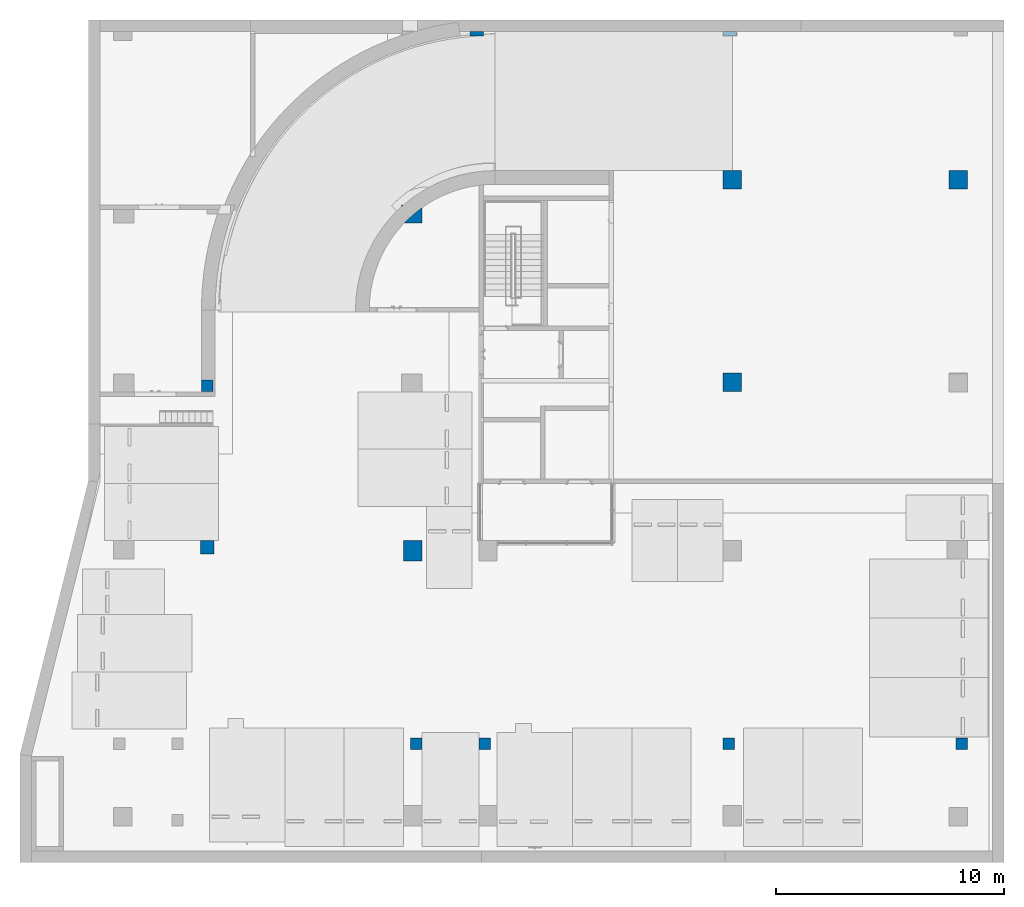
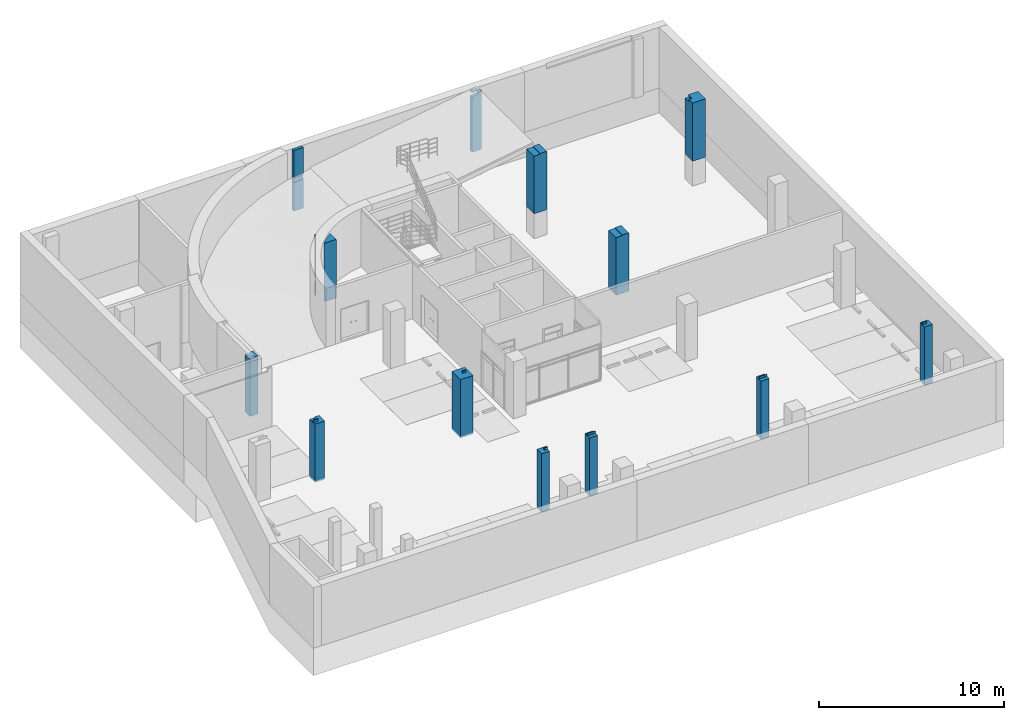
# One storey, part 16 of 30: 13 columns.
"""IFC2X3 building model written with IfcOpenShell, lengths in millimetres."""

from ifc_helpers import new_model, entity, si_unit, converted_unit, derived_unit, direction, frame, origin, place, context, subcontext, project, spatial, faceted_brep, source, transform, mapped, material, material_list, type_object, type_shapes, element, save


model = new_model("IFC2X3")

# Units and contexts
model_context = context("Model", 3, precision=0.01, world=origin(), true_north=direction((6.123031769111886e-17, 1.0)))
body_context = subcontext(model_context, "Body", "Model", "MODEL_VIEW")
ifc_project = project(units=[si_unit("LENGTHUNIT", "METRE", prefix="MILLI"), si_unit("AREAUNIT", "SQUARE_METRE"), si_unit("VOLUMEUNIT", "CUBIC_METRE"), converted_unit("PLANEANGLEUNIT", "DEGREE", entity("IfcRatioMeasure", 0.017453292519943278), si_unit("PLANEANGLEUNIT", "RADIAN"), dimensions=[0, 0, 0, 0, 0, 0, 0]), si_unit("MASSUNIT", "GRAM", prefix="KILO"), derived_unit("MASSDENSITYUNIT", [(si_unit("MASSUNIT", "GRAM", prefix="KILO"), 1), (si_unit("LENGTHUNIT", "METRE"), -3)]), derived_unit("MOMENTOFINERTIAUNIT", [(si_unit("LENGTHUNIT", "METRE"), 4)]), si_unit("TIMEUNIT", "SECOND"), si_unit("FREQUENCYUNIT", "HERTZ"), si_unit("THERMODYNAMICTEMPERATUREUNIT", "DEGREE_CELSIUS"), derived_unit("THERMALTRANSMITTANCEUNIT", [(si_unit("MASSUNIT", "GRAM", prefix="KILO"), 1), (si_unit("THERMODYNAMICTEMPERATUREUNIT", "KELVIN"), -1), (si_unit("TIMEUNIT", "SECOND"), -3)]), derived_unit("VOLUMETRICFLOWRATEUNIT", [(si_unit("LENGTHUNIT", "METRE"), 3), (si_unit("TIMEUNIT", "SECOND"), -1)]), derived_unit("MASSFLOWRATEUNIT", [(si_unit("MASSUNIT", "GRAM", prefix="KILO"), 1), (si_unit("TIMEUNIT", "SECOND"), -1)]), derived_unit("ROTATIONALFREQUENCYUNIT", [(si_unit("TIMEUNIT", "SECOND"), -1)]), si_unit("ELECTRICCURRENTUNIT", "AMPERE"), si_unit("ELECTRICVOLTAGEUNIT", "VOLT"), si_unit("POWERUNIT", "WATT"), si_unit("FORCEUNIT", "NEWTON", prefix="KILO"), si_unit("ILLUMINANCEUNIT", "LUX"), si_unit("LUMINOUSFLUXUNIT", "LUMEN"), si_unit("LUMINOUSINTENSITYUNIT", "CANDELA"), derived_unit("USERDEFINED", [(si_unit("MASSUNIT", "GRAM", prefix="KILO"), -1), (si_unit("LENGTHUNIT", "METRE"), -2), (si_unit("TIMEUNIT", "SECOND"), 3), (si_unit("LUMINOUSFLUXUNIT", "LUMEN"), 1)]), derived_unit("SOUNDPOWERUNIT", [(si_unit("MASSUNIT", "GRAM", prefix="KILO"), 1), (si_unit("LENGTHUNIT", "METRE"), 2), (si_unit("TIMEUNIT", "SECOND"), -3)]), derived_unit("SOUNDPRESSUREUNIT", [(si_unit("MASSUNIT", "GRAM", prefix="KILO"), 1), (si_unit("LENGTHUNIT", "METRE"), -1), (si_unit("TIMEUNIT", "SECOND"), -2)]), derived_unit("LINEARVELOCITYUNIT", [(si_unit("LENGTHUNIT", "METRE"), 1), (si_unit("TIMEUNIT", "SECOND"), -1)]), si_unit("PRESSUREUNIT", "PASCAL"), derived_unit("USERDEFINED", [(si_unit("LENGTHUNIT", "METRE"), -2), (si_unit("MASSUNIT", "GRAM", prefix="KILO"), 1), (si_unit("TIMEUNIT", "SECOND"), -2)]), derived_unit("LINEARFORCEUNIT", [(si_unit("MASSUNIT", "GRAM", prefix="KILO"), 1), (si_unit("LENGTHUNIT", "METRE"), 1), (si_unit("TIMEUNIT", "SECOND"), -2), (si_unit("LENGTHUNIT", "METRE"), -1)]), derived_unit("PLANARFORCEUNIT", [(si_unit("MASSUNIT", "GRAM", prefix="KILO"), 1), (si_unit("LENGTHUNIT", "METRE"), 1), (si_unit("TIMEUNIT", "SECOND"), -2), (si_unit("LENGTHUNIT", "METRE"), -2)])], contexts=[model_context])

# Site, building, storey
site_placement = place(None, frame((-14167.972527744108, -657.2125860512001, 0.0)))
site = spatial("IfcSite", under=ifc_project, at=site_placement, Name="Default", CompositionType="ELEMENT")
building_placement = place(site_placement, origin())
building = spatial("IfcBuilding", under=site, at=building_placement, Name="Sample Building", CompositionType="ELEMENT")
storey_placement = place(building_placement, frame((0.0, 0.0, -10100.0)))
storey = spatial("IfcBuildingStorey", under=building, at=storey_placement, Name="지하2층", CompositionType="ELEMENT", Elevation=-10100.0)

# Columns
ifc_material = material(Name="KBIMS-콘크리트")
column_type_1 = type_object("IfcColumnType", Name="CL111-철근콘크리트구조 기둥 (각형)1:CL111-철근콘크리트구조 기둥 (각형)_500x500_B2-B1C11", PredefinedType="COLUMN", material=ifc_material)
shared_shape_1 = source(origin(), body_context, "Body", "Brep", [
    faceted_brep([(500.0, 500.0, 0.0), (500.0, 0.0, 0.0), (0.0, 0.0, 0.0), (0.0, 500.0, 0.0), (500.0, 500.0, 3850.0), (500.0, 249.99969094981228, 3850.0), (500.0, 249.99969094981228, 4000.0), (500.0, 225.74612844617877, 4000.0), (500.0, 225.74612844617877, 3850.0), (500.0, 0.0, 3850.0), (0.0, 0.0, 3850.0), (0.0, 0.0, 3150.0), (0.0, 225.74612844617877, 3850.0), (0.0, 225.74612844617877, 4000.0), (0.0, 249.99969094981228, 4000.0), (0.0, 249.99969094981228, 3850.0), (0.0, 500.0, 3850.0), (0.0, 500.0, 3150.0), (50.0, 500.0, 3850.0), (450.0, 500.0, 3850.0)], [[[0, 1, 2, 3]], [[1, 0, 4, 5, 6, 7, 8, 9]], [[2, 1, 9, 10, 11]], [[3, 2, 11, 10, 12, 13, 14, 15, 16, 17]], [[0, 3, 17, 16, 18, 19, 4]], [[13, 7, 6, 14]], [[9, 8, 12, 10]], [[12, 8, 7, 13]], [[15, 5, 4, 19, 18, 16]], [[5, 15, 14, 6]]]),
])
type_shapes(column_type_1, [shared_shape_1])
column_1_placement = place(storey_placement, frame((40767.95514177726, 3907.2126921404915, 0.0)))
element("IfcColumn", 1, at=column_1_placement, inside=storey, type_object=column_type_1, material=ifc_material, Name="CL111-철근콘크리트구조 기둥 (각형)1:CL111-철근콘크리트구조 기둥 (각형)_500x500_B2-B1C11", ObjectType="CL111-철근콘크리트구조 기둥 (각형)1:CL111-철근콘크리트구조 기둥 (각형)_500x500_B2-B1C11", context=body_context, shape_type="MappedRepresentation", body=[
    mapped(shared_shape_1, transform((0.0, 0.0, 0.0), scale=1.0)),
])
column_type_2 = type_object("IfcColumnType", Name="CL111-철근콘크리트구조 기둥 (각형)1:CL111-철근콘크리트구조 기둥 (각형)_500x500_B2-B1C11", PredefinedType="COLUMN", material=ifc_material)
shared_shape_2 = source(origin(), body_context, "Body", "Brep", [
    faceted_brep([(500.0, 500.0, 0.0), (500.0, 0.0, 0.0), (0.0, 0.0, 0.0), (0.0, 500.0, 0.0), (500.0, 500.0, 3850.0), (500.0, 450.0, 3850.0), (500.0, 50.0, 3850.0), (500.0, 0.0, 3850.0), (0.0, 0.0, 3850.0), (0.0, 225.74612844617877, 3850.0), (0.0, 225.74612844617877, 4000.0), (0.0, 249.99969094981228, 4000.0), (0.0, 249.99969094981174, 3850.0), (0.0, 500.0, 3850.0), (250.01734935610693, 225.74612844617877, 4000.0), (250.01734935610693, 249.99969094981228, 4000.0), (250.01734935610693, 249.99969094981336, 3850.0), (250.01734935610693, 225.74612844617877, 3850.0)], [[[0, 1, 2, 3]], [[1, 0, 4, 5, 6, 7]], [[2, 1, 7, 8]], [[3, 2, 8, 9, 10, 11, 12, 13]], [[0, 3, 13, 4]], [[10, 14, 15, 11]], [[7, 6, 5, 4, 13, 12, 16, 17, 9, 8]], [[17, 14, 10, 9]], [[14, 17, 16, 15]], [[16, 12, 11, 15]]]),
])
type_shapes(column_type_2, [shared_shape_2])
column_2_placement = place(storey_placement, frame((50967.963838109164, 3907.2126921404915, 0.0)))
element("IfcColumn", 2, at=column_2_placement, inside=storey, type_object=column_type_2, material=ifc_material, Name="CL111-철근콘크리트구조 기둥 (각형)1:CL111-철근콘크리트구조 기둥 (각형)_500x500_B2-B1C11", ObjectType="CL111-철근콘크리트구조 기둥 (각형)1:CL111-철근콘크리트구조 기둥 (각형)_500x500_B2-B1C11", context=body_context, shape_type="MappedRepresentation", body=[
    mapped(shared_shape_2, transform((0.0, 0.0, 0.0), scale=1.0)),
])
column_type_3 = type_object("IfcColumnType", Name="CL111-철근콘크리트구조 기둥 (각형)1:CL111-철근콘크리트구조 기둥 (각형)_800x900_B2-1C2", PredefinedType="COLUMN", material=ifc_material)
shared_shape_3 = source(origin(), body_context, "Body", "Brep", [
    faceted_brep([(800.0, 900.0, 0.0), (800.0, 0.0, 0.0), (0.0, 0.0, 0.0), (0.0, 900.0, 0.0), (800.0, 900.0, 3850.0), (800.0, 700.0, 3850.0), (800.0, 300.0, 3850.0), (800.0, 0.0, 3850.0), (750.0, 0.0, 3850.0), (350.0, 0.0, 3850.0), (0.0, 0.0, 3850.0), (0.0, 900.0, 3850.0), (600.0251727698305, 449.99969094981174, 4000.0), (600.0251727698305, 499.999690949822, 4000.0), (400.01734935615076, 499.999690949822, 4000.0), (400.01734935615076, 449.99969094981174, 4000.0), (400.01734935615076, 449.99969094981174, 3850.0), (400.01734935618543, 499.9996909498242, 3850.0), (600.0251727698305, 499.99969094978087, 3850.0), (600.0251727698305, 449.9996909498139, 3850.0)], [[[0, 1, 2, 3]], [[1, 0, 4, 5, 6, 7]], [[2, 1, 7, 8, 9, 10]], [[3, 2, 10, 11]], [[0, 3, 11, 4]], [[12, 13, 14, 15]], [[11, 10, 9, 8, 7, 6, 5, 4], [16, 17, 18, 19]], [[13, 12, 19, 18]], [[16, 15, 14, 17]], [[16, 19, 12, 15]], [[18, 17, 14, 13]]]),
])
type_shapes(column_type_3, [shared_shape_3])
column_3_placement = place(storey_placement, frame((26767.955141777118, 12157.212617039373, 0.0)))
element("IfcColumn", 3, at=column_3_placement, inside=storey, type_object=column_type_3, material=ifc_material, Name="CL111-철근콘크리트구조 기둥 (각형)1:CL111-철근콘크리트구조 기둥 (각형)_800x900_B2-1C2", ObjectType="CL111-철근콘크리트구조 기둥 (각형)1:CL111-철근콘크리트구조 기둥 (각형)_800x900_B2-1C2", context=body_context, shape_type="MappedRepresentation", body=[
    mapped(shared_shape_3, transform((0.0, 0.0, 0.0), scale=1.0)),
])
column_type_4 = type_object("IfcColumnType", Name="CL111-철근콘크리트구조 기둥 (각형)1:CL111-철근콘크리트구조 기둥 (각형)_500x500_B2-B1C11", PredefinedType="COLUMN", material=ifc_material)
shared_shape_4 = source(origin(), body_context, "Body", "Brep", [
    faceted_brep([(500.0, 500.0, 0.0), (500.0, 0.0, 0.0), (0.0, 0.0, 0.0), (0.0, 500.0, 0.0), (500.0, 500.0, 3850.0), (500.0, 0.0, 3850.0), (250.03386575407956, 0.0, 3850.0), (250.0338657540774, 0.0, 3800.0), (0.0, 0.0, 3800.0), (0.0, 500.0, 3800.0), (250.03386575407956, 500.0, 3800.0), (250.03386575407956, 500.0, 3850.0), (250.03386575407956, 212.49976604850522, 3850.0)], [[[0, 1, 2, 3]], [[1, 0, 4, 5]], [[2, 1, 5, 6, 7, 8]], [[3, 2, 8, 9]], [[0, 3, 9, 10, 11, 4]], [[4, 11, 12, 6, 5]], [[7, 10, 9, 8]], [[10, 7, 6, 12, 11]]]),
])
type_shapes(column_type_4, [shared_shape_4])
column_4_placement = place(storey_placement, frame((17917.946448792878, 19594.712541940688, 0.0)))
element("IfcColumn", 4, at=column_4_placement, inside=storey, type_object=column_type_4, material=ifc_material, Name="CL111-철근콘크리트구조 기둥 (각형)1:CL111-철근콘크리트구조 기둥 (각형)_500x500_B2-B1C11", ObjectType="CL111-철근콘크리트구조 기둥 (각형)1:CL111-철근콘크리트구조 기둥 (각형)_500x500_B2-B1C11", context=body_context, shape_type="MappedRepresentation", body=[
    mapped(shared_shape_4, transform((0.0, 0.0, 0.0), scale=1.0)),
])
column_type_5 = type_object("IfcColumnType", Name="CL111-철근콘크리트구조 기둥 (각형)1:CL111-철근콘크리트구조 기둥 (각형)_800x800_B2-4C1", PredefinedType="COLUMN", material=ifc_material)
shared_shape_5 = source(origin(), body_context, "Body", "Brep", [
    faceted_brep([(800.0, 800.0, 0.0), (800.0, 0.0, 0.0), (0.0, 0.0, 0.0), (0.0, 800.0, 0.0), (800.0, 800.0, 3850.0), (800.0, 0.0, 3850.0), (400.02517277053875, 0.0, 3850.0), (400.02517277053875, 0.0, 3800.0), (0.0, 0.0, 3800.0), (0.0, 800.0, 3800.0), (400.02517277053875, 800.0, 3800.0), (400.0251727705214, 800.0, 3850.0), (400.02517277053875, 362.4997660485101, 3850.0)], [[[0, 1, 2, 3]], [[1, 0, 4, 5]], [[2, 1, 5, 6, 7, 8]], [[3, 2, 8, 9]], [[0, 3, 9, 10, 11, 4]], [[6, 5, 4, 11, 12]], [[7, 10, 9, 8]], [[10, 7, 6, 12, 11]]]),
])
type_shapes(column_type_5, [shared_shape_5])
column_5_placement = place(storey_placement, frame((40767.95514177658, 19594.712541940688, 0.0)))
element("IfcColumn", 5, at=column_5_placement, inside=storey, type_object=column_type_5, material=ifc_material, Name="CL111-철근콘크리트구조 기둥 (각형)1:CL111-철근콘크리트구조 기둥 (각형)_800x800_B2-4C1", ObjectType="CL111-철근콘크리트구조 기둥 (각형)1:CL111-철근콘크리트구조 기둥 (각형)_800x800_B2-4C1", context=body_context, shape_type="MappedRepresentation", body=[
    mapped(shared_shape_5, transform((0.0, 0.0, 0.0), scale=1.0)),
])
ifc_material_list_1 = material_list([ifc_material, ifc_material])
ifc_material_list_2 = material_list([ifc_material, ifc_material])
column_type_6 = type_object("IfcColumnType", Name="CL111-철근콘크리트구조 기둥 (각형)1:CL111-철근콘크리트구조 기둥 (각형)_800x900_B2-1C2", PredefinedType="COLUMN", material=ifc_material_list_2)
shared_shape_6 = source(origin(), body_context, "Body", "Brep", [
    faceted_brep([(901.5875000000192, 1.5874999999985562, 0.0), (125.4260743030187, 1.5874999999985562, 0.0), (307.43946888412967, 183.33417758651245, 0.0), (497.7512024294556, 356.3722505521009, 0.0), (695.9450381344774, 520.3232618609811, 0.0), (901.5875000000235, 674.8286290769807, 0.0), (901.5875000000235, 674.8286290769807, 3850.0), (901.5875000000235, 1.5874999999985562, 3850.0), (125.4260743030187, 1.5874999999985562, 3850.0), (307.43946888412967, 183.33417758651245, 3850.0), (695.9450381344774, 520.3232618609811, 3850.0), (497.7512024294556, 356.3722505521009, 3850.0)], [[[0, 1, 2, 3, 4, 5]], [[6, 7, 0, 5]], [[7, 8, 1, 0]], [[9, 8, 7, 6, 10, 11]], [[8, 9, 2, 1]], [[2, 9, 11, 3]], [[10, 6, 5, 4]], [[10, 4, 3, 11]]]),
    faceted_brep([(95.36007941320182, 801.5874999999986, 4000.0), (95.36007941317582, 801.5874999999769, 3318.222909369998), (95.36007941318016, 801.5874999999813, 2636.445818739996), (95.3600794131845, 801.5874999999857, 1954.6687281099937), (95.36007941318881, 801.58749999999, 1272.8916374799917), (95.36007941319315, 801.5874999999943, 681.7770906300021), (95.36007941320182, 801.5874999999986, 0.0), (1.587500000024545, 801.5874999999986, 0.0), (1.587500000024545, 801.5874999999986, 935.7523161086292), (48.28034534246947, 801.5874999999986, 943.9947053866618), (94.92041790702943, 801.5874999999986, 952.3099681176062), (94.92041790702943, 801.5874999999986, 1252.3099681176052), (48.2803453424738, 801.5874999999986, 1243.9947053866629), (1.587500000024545, 801.5874999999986, 1235.752316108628), (1.587500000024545, 801.5874999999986, 4000.0), (1.5875000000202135, 760.064421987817, 1229.3064590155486), (1.5875000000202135, 718.5870322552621, 1222.8029626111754), (1.5875000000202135, 718.5870322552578, 922.8029626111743), (1.5875000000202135, 760.064421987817, 929.3064590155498), (1.5875000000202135, 718.2073581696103, 0.0), (1.5875000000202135, 718.2073581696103, 681.7770906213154), (1.5875000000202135, 718.2073581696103, 1000.0), (1.5875000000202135, 718.2073581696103, 1500.0), (1.5875000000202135, 718.2073581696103, 2000.0), (1.5875000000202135, 718.2073581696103, 2636.4458187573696), (1.5875000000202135, 718.2073581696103, 3318.222909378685), (1.5875000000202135, 718.2073581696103, 4000.0), (48.25938558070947, 760.1385563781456, 4000.0), (48.0414688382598, 760.3261249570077, 937.5564572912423), (48.04146883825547, 760.3261249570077, 1237.5564572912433), (58.95380818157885, 769.6253430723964, 420.4442725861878), (48.2593855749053, 760.1385563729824, 840.8885452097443), (49.75987630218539, 761.4723116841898, 2298.1831375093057), (47.04731694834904, 759.0605278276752, 1750.0), (48.25938557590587, 760.1385563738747, 3512.9490910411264), (48.259385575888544, 760.1385563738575, 2761.6068451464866), (44.13420291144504, 756.4672061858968, 1295.0186779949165), (48.25938558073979, 760.1385563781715, 0.0)], [[[0, 1, 2, 3, 4, 5, 6, 7, 8, 9, 10, 11, 12, 13, 14]], [[14, 13, 15, 16, 17, 18, 8, 7, 19, 20, 21, 22, 23, 24, 25, 26]], [[0, 14, 26, 27]], [[11, 10, 28, 29]], [[28, 17, 16, 29]], [[29, 12, 11]], [[15, 12, 29]], [[29, 16, 15]], [[12, 15, 13]], [[10, 9, 28]], [[28, 9, 18]], [[18, 17, 28]], [[8, 18, 9]], [[20, 30, 31]], [[32, 33, 3]], [[34, 35, 2, 1, 0, 27]], [[4, 31, 5]], [[30, 20, 19]], [[22, 21, 36]], [[30, 37, 6]], [[31, 4, 36]], [[24, 32, 35]], [[35, 32, 2]], [[27, 26, 25, 24, 35, 34]], [[31, 21, 20]], [[23, 22, 33]], [[5, 31, 30]], [[36, 33, 22]], [[23, 33, 32]], [[3, 33, 4]], [[23, 32, 24]], [[2, 32, 3]], [[5, 30, 6]], [[19, 37, 30]], [[33, 36, 4]], [[31, 36, 21]], [[37, 19, 7, 6]]]),
])
type_shapes(column_type_6, [shared_shape_6])
column_6_placement = place(storey_placement, frame((26666.367641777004, 26955.6251170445, 0.0)))
element("IfcColumn", 6, at=column_6_placement, inside=storey, type_object=column_type_6, material=ifc_material_list_1, Name="CL111-철근콘크리트구조 기둥 (각형)1:CL111-철근콘크리트구조 기둥 (각형)_800x900_B2-1C2", ObjectType="CL111-철근콘크리트구조 기둥 (각형)1:CL111-철근콘크리트구조 기둥 (각형)_800x900_B2-1C2", context=body_context, shape_type="MappedRepresentation", body=[
    mapped(shared_shape_6, transform((0.0, 0.0, 0.0), scale=1.0)),
])
column_type_7 = type_object("IfcColumnType", Name="CL111-철근콘크리트구조 기둥 (각형)1:CL111-철근콘크리트구조 기둥 (각형)_800x800_B2-4C1", PredefinedType="COLUMN", material=ifc_material)
shared_shape_7 = source(origin(), body_context, "Body", "Brep", [
    faceted_brep([(800.0, 800.0, 0.0), (800.0, 0.0, 0.0), (0.0, 0.0, 0.0), (0.0, 800.0, 0.0), (800.0, 800.0, 3850.0), (800.0, 0.0, 3850.0), (400.02517277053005, 0.0, 3850.0), (400.02517277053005, 0.0, 3800.0), (0.0, 0.0, 3800.0), (0.0, 400.0, 3800.0), (0.0, 500.0, 3800.0), (0.0, 800.0, 3800.0), (0.0, 800.0, 3629.985665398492), (0.0, 800.0, 3348.0785895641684), (0.0, 800.0, 3150.0), (400.02517277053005, 800.0, 3800.0), (400.02517277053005, 800.0, 3850.0), (400.02517277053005, 599.9996909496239, 3850.0), (400.02517277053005, 799.9996909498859, 3800.0)], [[[0, 1, 2, 3]], [[1, 0, 4, 5]], [[2, 1, 5, 6, 7, 8]], [[3, 2, 8, 9, 10, 11, 12, 13, 14]], [[0, 3, 14, 13, 12, 11, 15, 16, 4]], [[4, 16, 17, 6, 5]], [[7, 15, 11, 10, 9, 8]], [[18, 7, 6, 17, 16]]]),
])
type_shapes(column_type_7, [shared_shape_7])
column_7_placement = place(storey_placement, frame((40767.95514177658, 28457.212617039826, 0.0)))
element("IfcColumn", 7, at=column_7_placement, inside=storey, type_object=column_type_7, material=ifc_material, Name="CL111-철근콘크리트구조 기둥 (각형)1:CL111-철근콘크리트구조 기둥 (각형)_800x800_B2-4C1", ObjectType="CL111-철근콘크리트구조 기둥 (각형)1:CL111-철근콘크리트구조 기둥 (각형)_800x800_B2-4C1", context=body_context, shape_type="MappedRepresentation", body=[
    mapped(shared_shape_7, transform((0.0, 0.0, 0.0), scale=1.0)),
])
column_type_8 = type_object("IfcColumnType", Name="CL111-철근콘크리트구조 기둥 (각형)1:CL111-철근콘크리트구조 기둥 (각형)_800x800_B2-4C1", PredefinedType="COLUMN", material=ifc_material)
shared_shape_8 = source(origin(), body_context, "Body", "Brep", [
    faceted_brep([(800.0, 800.0, 0.0), (800.0, 0.0, 0.0), (0.0, 0.0, 0.0), (0.0, 800.0, 0.0), (800.0, 800.0, 3850.0), (800.0, 399.99991205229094, 3850.0), (800.0, 0.0, 3850.0), (0.0, 0.0, 3850.0), (0.0, 399.9996030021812, 3850.0), (0.0, 399.9996030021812, 3700.0), (0.0, 800.0, 3700.0), (200.02517860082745, 800.0, 3700.0), (200.02517860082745, 800.0, 3850.0), (200.02517860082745, 399.9996030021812, 3850.0), (200.02517860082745, 399.9996030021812, 3700.0)], [[[0, 1, 2, 3]], [[1, 0, 4, 5, 6]], [[2, 1, 6, 7]], [[3, 2, 7, 8, 9, 10]], [[0, 3, 10, 11, 12, 4]], [[6, 5, 4, 12, 13, 8, 7]], [[14, 11, 10, 9]], [[11, 14, 13, 12]], [[14, 9, 8, 13]]]),
])
type_shapes(column_type_8, [shared_shape_8])
column_8_placement = place(storey_placement, frame((50667.95513594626, 28457.212704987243, 0.0)))
element("IfcColumn", 8, at=column_8_placement, inside=storey, type_object=column_type_8, material=ifc_material, Name="CL111-철근콘크리트구조 기둥 (각형)1:CL111-철근콘크리트구조 기둥 (각형)_800x800_B2-4C1", ObjectType="CL111-철근콘크리트구조 기둥 (각형)1:CL111-철근콘크리트구조 기둥 (각형)_800x800_B2-4C1", context=body_context, shape_type="MappedRepresentation", body=[
    mapped(shared_shape_8, transform((0.0, 0.0, 0.0), scale=1.0)),
])
column_type_9 = type_object("IfcColumnType", Name="CL111-철근콘크리트구조 기둥 (각형)1:CL111-철근콘크리트구조 기둥 (각형)_600x600_B2-10C4", PredefinedType="COLUMN", material=ifc_material)
shared_shape_9 = source(origin(), body_context, "Body", "Brep", [
    faceted_brep([(1.5874999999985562, 1.5875000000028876, 0.0), (1.5874999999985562, 201.55250735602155, 0.0), (601.5875000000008, 201.5525073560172, 0.0), (601.5874999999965, 1.5875000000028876, 0.0), (601.5875000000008, 1.5874999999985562, 4000.0), (601.5875000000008, 1.5874999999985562, 2224.72226267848), (601.5875000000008, 25.1537967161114, 2224.839458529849), (601.5875000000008, 46.419256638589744, 2224.945212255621), (601.5875000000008, 91.25112012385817, 2225.166519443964), (601.5875000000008, 91.25112012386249, 1925.166519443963), (601.5875000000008, 46.419256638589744, 1924.9452122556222), (601.5875000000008, 25.153796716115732, 1924.83945852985), (601.5875000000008, 1.5874999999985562, 1924.7222626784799), (601.5875000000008, 201.5525073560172, 4000.0), (1.5874999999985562, 1.5874999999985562, 4000.0), (1.5874999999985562, 1.5874999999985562, 2152.6692798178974), (76.59129942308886, 1.5874999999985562, 2161.6486493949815), (151.59337074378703, 1.5874999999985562, 2170.6371131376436), (226.59443410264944, 1.5874999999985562, 2179.6340698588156), (301.59457082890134, 1.5874999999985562, 2188.6388378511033), (376.5938629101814, 1.5874999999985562, 2197.6507316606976), (451.59239294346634, 1.5874999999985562, 2206.6690623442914), (526.5902440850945, 1.5874999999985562, 2215.693137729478), (376.59386291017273, 1.5874999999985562, 1897.6507316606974), (301.59457082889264, 1.5875000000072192, 1888.6388378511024), (226.59443410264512, 1.5875000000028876, 1879.6340698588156), (151.59337074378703, 1.5874999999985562, 1870.637113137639), (76.59129942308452, 1.5874999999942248, 1861.6486493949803), (1.5874999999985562, 1.5875000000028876, 1852.6692798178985), (526.5902440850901, 1.5874999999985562, 1915.6931377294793), (451.59239294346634, 1.5874999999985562, 1906.6690623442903), (1.5874999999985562, 201.55250735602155, 4000.0), (1.5874999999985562, 26.534281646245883, 1852.9409869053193), (1.5874999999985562, 51.48107536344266, 1853.211583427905), (1.5874999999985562, 51.48107536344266, 2153.211583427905), (1.5874999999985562, 26.534281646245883, 2152.940986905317), (301.32778709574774, 75.09300539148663, 1889.1890690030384), (301.3277870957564, 75.09300539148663, 2189.189069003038)], [[[0, 1, 2, 3]], [[4, 5, 6, 7, 8, 9, 10, 11, 12, 3, 2, 13]], [[4, 14, 15, 16, 17, 18, 19, 20, 21, 22, 5]], [[23, 24, 25, 26, 27, 28, 0, 3, 12, 29, 30]], [[31, 1, 0, 28, 32, 33, 34, 35, 15, 14]], [[4, 13, 31, 14]], [[36, 37, 34, 33]], [[36, 9, 8, 37]], [[7, 37, 8]], [[19, 7, 20]], [[7, 6, 20]], [[22, 21, 6]], [[6, 21, 20]], [[18, 37, 7]], [[6, 5, 22]], [[16, 15, 35]], [[35, 37, 17]], [[19, 18, 7]], [[18, 17, 37]], [[17, 16, 35]], [[35, 34, 37]], [[9, 36, 10]], [[23, 10, 24]], [[23, 11, 10]], [[11, 30, 29]], [[23, 30, 11]], [[10, 36, 25]], [[29, 12, 11]], [[32, 28, 27]], [[26, 36, 32]], [[10, 25, 24]], [[36, 26, 25]], [[32, 27, 26]], [[36, 33, 32]], [[2, 1, 31, 13]]]),
])
type_shapes(column_type_9, [shared_shape_9])
column_9_placement = place(storey_placement, frame((29666.358912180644, 35155.62511703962, 0.0)))
element("IfcColumn", 9, at=column_9_placement, inside=storey, type_object=column_type_9, material=ifc_material, Name="CL111-철근콘크리트구조 기둥 (각형)1:CL111-철근콘크리트구조 기둥 (각형)_600x600_B2-10C4", ObjectType="CL111-철근콘크리트구조 기둥 (각형)1:CL111-철근콘크리트구조 기둥 (각형)_600x600_B2-10C4", context=body_context, shape_type="MappedRepresentation", body=[
    mapped(shared_shape_9, transform((0.0, 0.0, 0.0), scale=1.0)),
])
ifc_material_list_3 = material_list([ifc_material, ifc_material])
ifc_material_list_4 = material_list([ifc_material, ifc_material])
column_type_10 = type_object("IfcColumnType", Name="CL111-철근콘크리트구조 기둥 (각형)1:CL111-철근콘크리트구조 기둥 (각형)_600x600_B2-B2C12", PredefinedType="COLUMN", material=ifc_material_list_4)
shared_shape_10 = source(origin(), body_context, "Body", "Brep", [
    faceted_brep([(600.0, 0.0, 0.0), (0.0, 0.0, 0.0), (0.0, 199.9650073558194, 0.0), (600.0, 199.96500735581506, 0.0), (600.0, 0.0, 3850.0), (600.0, 199.9996909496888, 3850.0), (600.0, 199.9650073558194, 3850.0), (400.0251727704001, 199.9996909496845, 3850.0), (400.02517277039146, 0.0, 3850.0), (400.0251727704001, 0.0, 3695.948692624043), (400.0251727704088, 199.9650073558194, 3695.9486926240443), (0.0, 199.99969094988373, 3629.985665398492), (0.0, 0.0, 3629.985665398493), (400.0251727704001, 199.99969094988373, 3695.948692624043), (400.0251727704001, 199.9650073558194, 3850.0), (0.0, 0.0, 3348.212628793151), (0.0, 199.9650073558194, 3629.985665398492), (0.0, 199.9650073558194, 3348.2126287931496)], [[[0, 1, 2, 3]], [[4, 0, 3, 5]], [[4, 6, 7, 8]], [[9, 10, 11, 12]], [[13, 9, 8, 14]], [[1, 0, 4, 8, 9, 12, 15]], [[1, 15, 12, 16, 17, 2]], [[3, 2, 17, 16, 10, 14, 6]]]),
    faceted_brep([(400.02517277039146, 0.0, 4000.0), (0.0, 0.0, 4000.0), (0.0, 0.0, 3957.017643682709), (0.0, 0.0, 3934.0369727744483), (0.0, 199.9650073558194, 4000.0), (0.0, 199.9650073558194, 3957.0176436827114), (0.0, 199.99969094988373, 3934.0369727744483), (400.0251727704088, 199.9650073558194, 4000.0), (0.0, 199.9650073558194, 3934.03697277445), (400.0251727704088, 199.9996909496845, 4000.0)], [[[0, 1, 2, 3]], [[3, 2, 1, 4, 5, 6]], [[1, 0, 7, 4]], [[0, 3, 8, 9]], [[8, 5, 4, 7]]]),
])
type_shapes(column_type_10, [shared_shape_10])
column_10_placement = place(storey_placement, frame((40767.955141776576, 35157.212617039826, 0.0)))
element("IfcColumn", 10, at=column_10_placement, inside=storey, type_object=column_type_10, material=ifc_material_list_3, Name="CL111-철근콘크리트구조 기둥 (각형)1:CL111-철근콘크리트구조 기둥 (각형)_600x600_B2-B2C12", ObjectType="CL111-철근콘크리트구조 기둥 (각형)1:CL111-철근콘크리트구조 기둥 (각형)_600x600_B2-B2C12", context=body_context, shape_type="MappedRepresentation", body=[
    mapped(shared_shape_10, transform((0.0, 0.0, 0.0), scale=1.0)),
])
column_type_11 = type_object("IfcColumnType", Name="CL111-철근콘크리트구조 기둥 (각형)1:CL111-철근콘크리트구조 기둥 (각형)_600x600_B2-B2C12", PredefinedType="COLUMN", material=ifc_material)
shared_shape_11 = source(origin(), body_context, "Body", "Brep", [
    faceted_brep([(600.0, 600.0, 0.0), (600.0, 0.0, 0.0), (0.0, 0.0, 0.0), (0.0, 600.0, 0.0), (600.0, 600.0, 3850.0), (600.0, 500.0003307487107, 3850.0), (600.0, 0.0, 3850.0), (500.0000558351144, 0.0, 3850.0), (94.75316354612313, 0.0, 3850.0), (0.0, 0.0, 3850.0), (0.0, 175.74618113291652, 3850.0), (0.0, 175.74618113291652, 4000.0), (0.0, 199.99974363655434, 4000.0), (0.0, 199.99974363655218, 3800.0), (0.0, 400.0000526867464, 3800.0), (0.0, 600.0, 3800.0), (300.03386575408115, 600.0, 3800.0), (300.03386575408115, 600.0, 3850.0), (300.03386575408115, 175.74618113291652, 4000.0), (300.03386575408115, 199.99974363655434, 4000.0), (300.03386575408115, 199.99974363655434, 3850.0), (300.03386575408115, 175.74618113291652, 3850.0), (300.03386575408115, 199.99974363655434, 3800.0)], [[[0, 1, 2, 3]], [[1, 0, 4, 5, 6]], [[2, 1, 6, 7, 8, 9]], [[3, 2, 9, 10, 11, 12, 13, 14, 15]], [[0, 3, 15, 16, 17, 4]], [[11, 18, 19, 12]], [[6, 5, 4, 17, 20, 21, 10, 9, 8, 7]], [[21, 18, 11, 10]], [[18, 21, 20, 19]], [[13, 22, 16, 15, 14]], [[20, 22, 13, 12, 19]], [[22, 20, 17, 16]]]),
])
type_shapes(column_type_11, [shared_shape_11])
column_11_placement = place(storey_placement, frame((17867.946448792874, 12457.21256435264, 0.0)))
element("IfcColumn", 11, at=column_11_placement, inside=storey, type_object=column_type_11, material=ifc_material, Name="CL111-철근콘크리트구조 기둥 (각형)1:CL111-철근콘크리트구조 기둥 (각형)_600x600_B2-B2C12", ObjectType="CL111-철근콘크리트구조 기둥 (각형)1:CL111-철근콘크리트구조 기둥 (각형)_600x600_B2-B2C12", context=body_context, shape_type="MappedRepresentation", body=[
    mapped(shared_shape_11, transform((0.0, 0.0, 0.0), scale=1.0)),
])
column_type_12 = type_object("IfcColumnType", Name="CL111-철근콘크리트구조 기둥 (각형)1:CL111-철근콘크리트구조 기둥 (각형)_500x500_B2-B1C11", PredefinedType="COLUMN", material=ifc_material)
shared_shape_12 = source(origin(), body_context, "Body", "Brep", [
    faceted_brep([(500.0, 500.0, 0.0), (500.0, 0.0, 0.0), (0.0, 0.0, 0.0), (0.0, 500.0, 0.0), (500.0, 500.0, 3850.0), (500.0, 249.99969094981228, 3850.0), (500.0, 249.99969094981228, 4000.0), (500.0, 225.74612844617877, 4000.0), (500.0, 225.74612844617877, 3850.0), (500.0, 0.0, 3850.0), (450.0, 0.0, 3850.0), (50.0, 0.0, 3850.0), (0.0, 0.0, 3850.0), (0.0, 225.74612844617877, 3850.0), (0.0, 225.74612844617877, 4000.0), (0.0, 299.99967636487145, 4000.0), (0.0, 299.99967636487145, 3850.0), (0.0, 500.0, 3850.0), (250.01734935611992, 249.99969094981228, 4000.0), (250.01734935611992, 299.99967636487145, 4000.0), (250.01734935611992, 249.99969094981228, 3850.0), (250.01734935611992, 299.99967636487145, 3850.0)], [[[0, 1, 2, 3]], [[1, 0, 4, 5, 6, 7, 8, 9]], [[2, 1, 9, 10, 11, 12]], [[3, 2, 12, 13, 14, 15, 16, 17]], [[0, 3, 17, 4]], [[14, 7, 6, 18, 19, 15]], [[9, 8, 13, 12, 11, 10]], [[13, 8, 7, 14]], [[20, 5, 4, 17, 16, 21]], [[18, 20, 21, 19]], [[20, 18, 6, 5]], [[21, 16, 15, 19]]]),
])
type_shapes(column_type_12, [shared_shape_12])
column_12_placement = place(storey_placement, frame((30067.955114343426, 3907.2126921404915, 0.0)))
element("IfcColumn", 12, at=column_12_placement, inside=storey, type_object=column_type_12, material=ifc_material, Name="CL111-철근콘크리트구조 기둥 (각형)1:CL111-철근콘크리트구조 기둥 (각형)_500x500_B2-B1C11", ObjectType="CL111-철근콘크리트구조 기둥 (각형)1:CL111-철근콘크리트구조 기둥 (각형)_500x500_B2-B1C11", context=body_context, shape_type="MappedRepresentation", body=[
    mapped(shared_shape_12, transform((0.0, 0.0, 0.0), scale=1.0)),
])
column_type_13 = type_object("IfcColumnType", Name="CL111-철근콘크리트구조 기둥 (각형)1:CL111-철근콘크리트구조 기둥 (각형)_500x500_B2-B1C11", PredefinedType="COLUMN", material=ifc_material)
shared_shape_13 = source(origin(), body_context, "Body", "Brep", [
    faceted_brep([(500.0, 500.0, 0.0), (500.0, 0.0, 0.0), (0.0, 0.0, 0.0), (0.0, 500.0, 0.0), (500.0, 500.0, 3850.0), (500.0, 299.99967636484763, 3850.0), (500.0, 299.99967636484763, 4000.0), (500.0, 225.74612844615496, 4000.0), (500.0, 225.74612844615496, 3850.0), (500.0, 99.99998541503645, 3850.0), (500.0, 0.0, 3850.0), (450.0, 0.0, 3850.0), (50.0, 0.0, 3850.0), (0.0, 0.0, 3850.0), (0.0, 0.0, 3150.0), (0.0, 500.0, 3850.0), (0.0, 500.0, 3150.0), (300.02517276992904, 225.74612844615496, 4000.0), (300.02517276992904, 299.99967636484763, 4000.0), (300.0251727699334, 225.74612844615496, 3850.0), (300.02517276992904, 299.9996763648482, 3850.0)], [[[0, 1, 2, 3]], [[1, 0, 4, 5, 6, 7, 8, 9, 10]], [[2, 1, 10, 11, 12, 13, 14]], [[3, 2, 14, 13, 15, 16]], [[0, 3, 16, 15, 4]], [[17, 7, 6, 18]], [[10, 9, 8, 19, 20, 5, 4, 15, 13, 12, 11]], [[8, 7, 17, 19]], [[19, 17, 18, 20]], [[5, 20, 18, 6]]]),
])
type_shapes(column_type_13, [shared_shape_13])
column_13_placement = place(storey_placement, frame((27067.95514177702, 3907.212692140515, 0.0)))
element("IfcColumn", 13, at=column_13_placement, inside=storey, type_object=column_type_13, material=ifc_material, Name="CL111-철근콘크리트구조 기둥 (각형)1:CL111-철근콘크리트구조 기둥 (각형)_500x500_B2-B1C11", ObjectType="CL111-철근콘크리트구조 기둥 (각형)1:CL111-철근콘크리트구조 기둥 (각형)_500x500_B2-B1C11", context=body_context, shape_type="MappedRepresentation", body=[
    mapped(shared_shape_13, transform((0.0, 0.0, 0.0), scale=1.0)),
])

save(model, "model.ifc")
